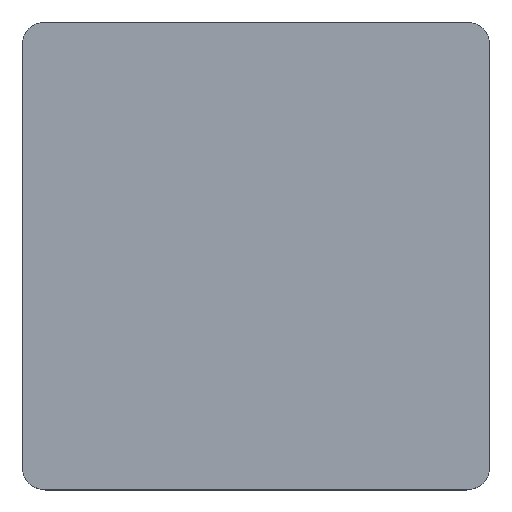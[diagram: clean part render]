
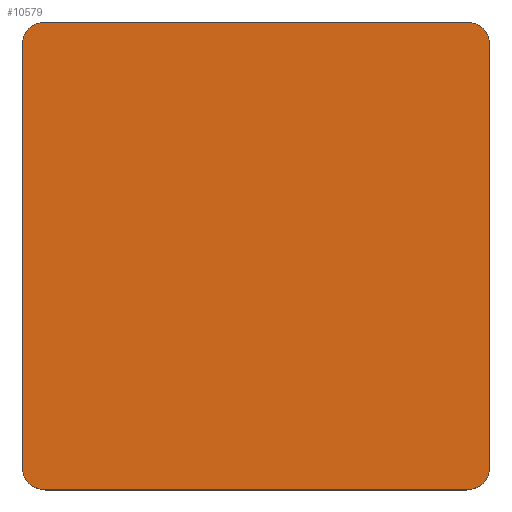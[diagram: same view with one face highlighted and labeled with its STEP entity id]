
A CAD part, top view. The second image highlights one B-rep face of the part: STEP entity #10579.
In plain terms, the highlighted planar face has unit normal (0, 0, 1).
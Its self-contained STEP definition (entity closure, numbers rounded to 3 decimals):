
#10504=CARTESIAN_POINT('',(0.,0.,20.));
#10505=DIRECTION('',(1.,0.,0.));
#10506=DIRECTION('',(0.,0.,1.));
#10507=AXIS2_PLACEMENT_3D('',#10504,#10506,#10505);
#10508=PLANE('',#10507);
#10509=CARTESIAN_POINT('',(-315.,-350.,20.));
#10510=VERTEX_POINT('',#10509);
#10511=CARTESIAN_POINT('',(315.,-350.,20.));
#10512=VERTEX_POINT('',#10511);
#10513=CARTESIAN_POINT('',(-315.,-350.,20.));
#10514=DIRECTION('',(1.,0.,0.));
#10515=VECTOR('',#10514,630.);
#10516=LINE('',#10513,#10515);
#10517=EDGE_CURVE('',#10510,#10512,#10516,.T.);
#10518=ORIENTED_EDGE('E9',*,*,#10517,.T.);
#10519=CARTESIAN_POINT('',(350.,-315.,20.));
#10520=VERTEX_POINT('',#10519);
#10521=CARTESIAN_POINT('',(315.,-315.,20.));
#10522=DIRECTION('',(0.,-1.,0.));
#10523=DIRECTION('',(0.,-0.,1.));
#10524=AXIS2_PLACEMENT_3D('',#10521,#10523,#10522);
#10525=CIRCLE('',#10524,35.);
#10526=EDGE_CURVE('',#10512,#10520,#10525,.T.);
#10527=ORIENTED_EDGE('E10',*,*,#10526,.T.);
#10528=CARTESIAN_POINT('',(350.,315.,20.));
#10529=VERTEX_POINT('',#10528);
#10530=CARTESIAN_POINT('',(350.,-315.,20.));
#10531=DIRECTION('',(0.,1.,0.));
#10532=VECTOR('',#10531,630.);
#10533=LINE('',#10530,#10532);
#10534=EDGE_CURVE('',#10520,#10529,#10533,.T.);
#10535=ORIENTED_EDGE('E11',*,*,#10534,.T.);
#10536=CARTESIAN_POINT('',(315.,350.,20.));
#10537=VERTEX_POINT('',#10536);
#10538=CARTESIAN_POINT('',(315.,315.,20.));
#10539=DIRECTION('',(1.,0.,0.));
#10540=DIRECTION('',(0.,0.,1.));
#10541=AXIS2_PLACEMENT_3D('',#10538,#10540,#10539);
#10542=CIRCLE('',#10541,35.);
#10543=EDGE_CURVE('',#10529,#10537,#10542,.T.);
#10544=ORIENTED_EDGE('E12',*,*,#10543,.T.);
#10545=CARTESIAN_POINT('',(-315.,350.,20.));
#10546=VERTEX_POINT('',#10545);
#10547=CARTESIAN_POINT('',(315.,350.,20.));
#10548=DIRECTION('',(-1.,0.,0.));
#10549=VECTOR('',#10548,630.);
#10550=LINE('',#10547,#10549);
#10551=EDGE_CURVE('',#10537,#10546,#10550,.T.);
#10552=ORIENTED_EDGE('E13',*,*,#10551,.T.);
#10553=CARTESIAN_POINT('',(-350.,315.,20.));
#10554=VERTEX_POINT('',#10553);
#10555=CARTESIAN_POINT('',(-315.,315.,20.));
#10556=DIRECTION('',(0.,1.,0.));
#10557=DIRECTION('',(0.,0.,1.));
#10558=AXIS2_PLACEMENT_3D('',#10555,#10557,#10556);
#10559=CIRCLE('',#10558,35.);
#10560=EDGE_CURVE('',#10546,#10554,#10559,.T.);
#10561=ORIENTED_EDGE('E14',*,*,#10560,.T.);
#10562=CARTESIAN_POINT('',(-350.,-315.,20.));
#10563=VERTEX_POINT('',#10562);
#10564=CARTESIAN_POINT('',(-350.,315.,20.));
#10565=DIRECTION('',(0.,-1.,0.));
#10566=VECTOR('',#10565,630.);
#10567=LINE('',#10564,#10566);
#10568=EDGE_CURVE('',#10554,#10563,#10567,.T.);
#10569=ORIENTED_EDGE('E15',*,*,#10568,.T.);
#10570=CARTESIAN_POINT('',(-315.,-315.,20.));
#10571=DIRECTION('',(-1.,0.,0.));
#10572=DIRECTION('',(-0.,0.,1.));
#10573=AXIS2_PLACEMENT_3D('',#10570,#10572,#10571);
#10574=CIRCLE('',#10573,35.);
#10575=EDGE_CURVE('',#10563,#10510,#10574,.T.);
#10576=ORIENTED_EDGE('E16',*,*,#10575,.T.);
#10577=EDGE_LOOP('',(#10518,#10527,#10535,#10544,#10552,#10561,#10569,#10576));
#10578=FACE_OUTER_BOUND('',#10577,.T.);
#10579=ADVANCED_FACE('F2',(#10578),#10508,.T.);
